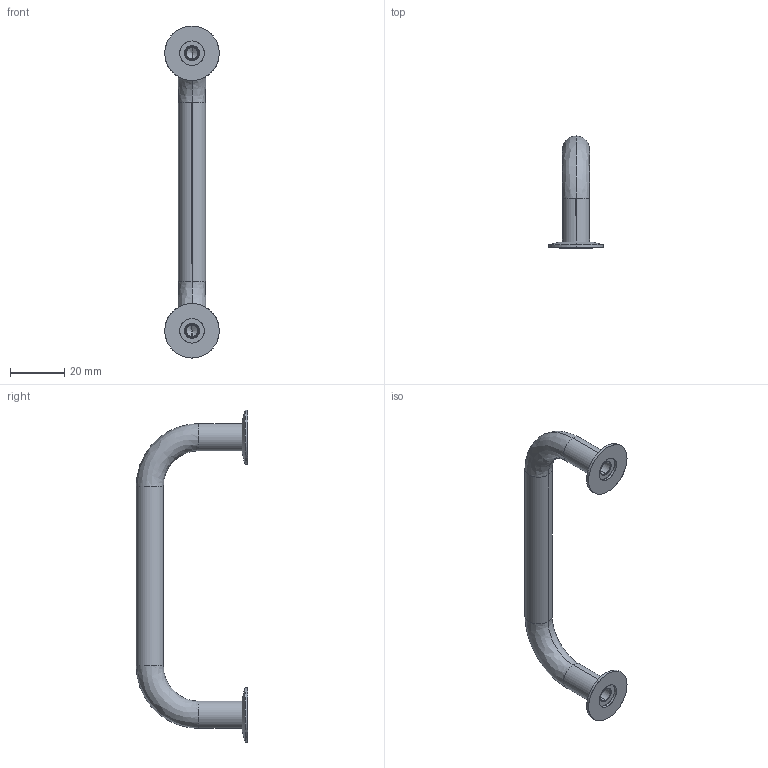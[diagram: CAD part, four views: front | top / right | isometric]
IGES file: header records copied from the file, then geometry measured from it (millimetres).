
Start section: SolidWorks IGES file using analytic representation for surfaces
Global section: file name: C:\Documents and Settings\IANO\Desktop\Temp File\Process pending\PCN pending\78700_v2\78700_v2_20170116_IGES\78700.W0510.igs; native system: SolidWorks 2009; preprocessor: SolidWorks 2009; author: IANO; date: 170310.095828; units: millimetre
Bounding box: 20 x 41 x 122 mm (x, y, z)
Surface area: 6640.3 mm2 (no closed solid volume)
Topology: 0 solids, 0 shells, 52 faces, 808 edges, 804 vertices
Faces by surface type: revolution 38, bspline 14
